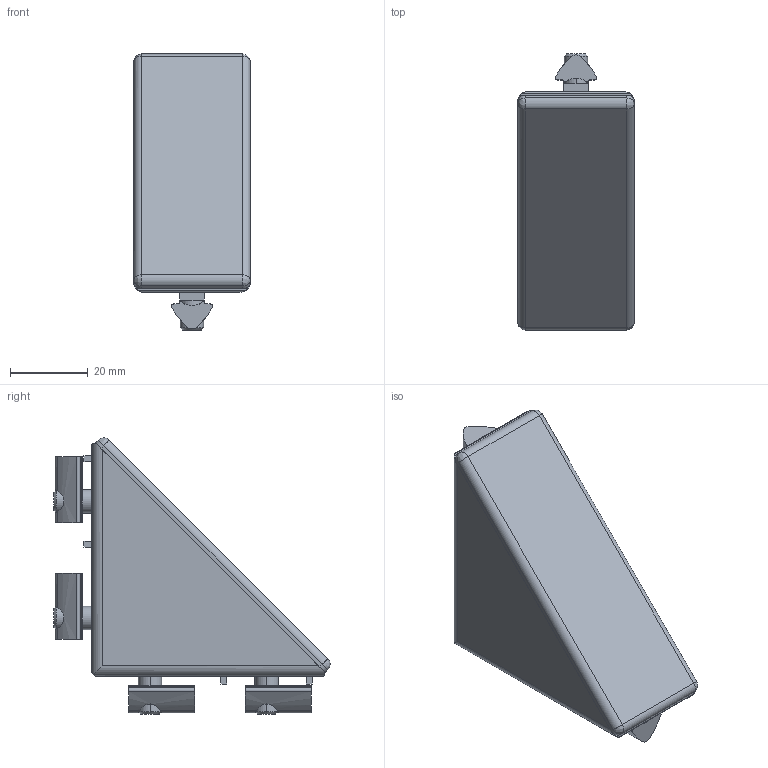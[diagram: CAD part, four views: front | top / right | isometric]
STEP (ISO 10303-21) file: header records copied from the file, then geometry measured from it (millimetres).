
FILE_DESCRIPTION (( 'STEP AP203' ), '1' );
FILE_NAME ('0106W6060ZNSZ.STEP', '2024-03-12T14:51:49', ( 'Windows-Benutzer' ), ( '' ), 'SwSTEP 2.0', 'SolidWorks 2023', '' );
FILE_SCHEMA (( 'CONFIG_CONTROL_DESIGN' ));
Length unit declared in the file: millimetre
Products named in the file (1): 0106W6060ZNSZ
Bounding box: 30 x 71.01 x 71.01 mm (x, y, z)
Volume: 31213.2 mm3; surface area: 25121.1 mm2
Topology: 14 solids, 14 shells, 303 faces, 774 edges, 504 vertices
Faces by surface type: plane 139, cylinder 136, bspline 20, cone 8
Entity records: 10293 total; most frequent: CARTESIAN_POINT 2891, ORIENTED_EDGE 1540, DIRECTION 1500, EDGE_CURVE 770, AXIS2_PLACEMENT_3D 537, VERTEX_POINT 504, LINE 426, VECTOR 426
